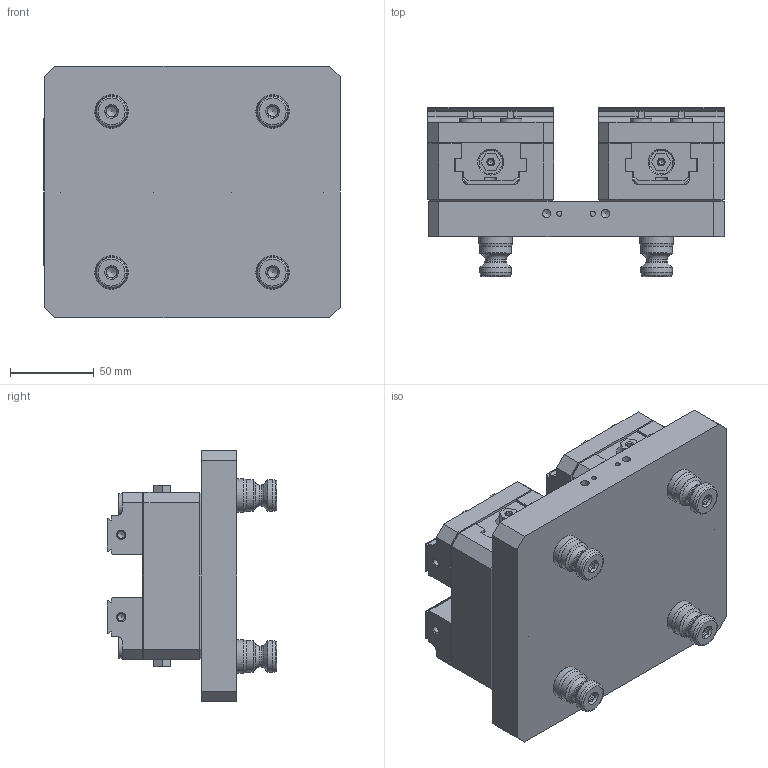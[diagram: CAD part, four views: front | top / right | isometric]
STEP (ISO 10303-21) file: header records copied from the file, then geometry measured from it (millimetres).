
FILE_DESCRIPTION (( 'STEP AP214' ), '1' );
FILE_NAME ('A96-2V75100X_WEBSITE.STEP', '2025-08-14T18:50:56', ( '' ), ( '' ), 'SwSTEP 2.0', 'SolidWorks 2024', '' );
FILE_SCHEMA (( 'AUTOMOTIVE_DESIGN' ));
Length unit declared in the file: inch
Products named in the file (20): HW.76232_WEBSITE_91290A418; V75100X-2_WEBSITE_V75100X-2L OP2; V75100X-2_WEBSITE_V75100X-2R OP2; A96-2V75100X-1_WEBSITE; D_PS20F-1_WEBSITE_HARD TURN; M5x10.DP_WEBSITE_93600A511; HW.76252_WEBSITE_91290A442; V75100-6_WEBSITE; LP8_WEBSITE_LP8; D_39874.CPSS_WEBSITE_91390A162; V75100-4_WEBSITE; V75100X_WEBSITE; V75100X-3_WEBSITE; SB3V_WEBSITE_FINISHED PART; A96-2V75100X_WEBSITE; M4C_WEBSITE; V75100X-5_WEBSITE_HARD OP2; V75100X-1_WEBSITE_FINAL; HW.76048_WEBSITE_91290A138; D_PS20F_WEBSITE
Assembly tree (36 placements, depth 3):
  A96-2V75100X_WEBSITE
    A96-2V75100X-1_WEBSITE
    V75100X_WEBSITE  x2
      V75100X-1_WEBSITE_FINAL
      V75100X-2_WEBSITE_V75100X-2L OP2
      V75100X-2_WEBSITE_V75100X-2R OP2
      V75100X-3_WEBSITE
      V75100-4_WEBSITE
      V75100X-5_WEBSITE_HARD OP2
      V75100-6_WEBSITE
      HW.76048_WEBSITE_91290A138
      HW.76232_WEBSITE_91290A418
      M5x10.DP_WEBSITE_93600A511
      SB3V_WEBSITE_FINISHED PART
      M4C_WEBSITE
      LP8_WEBSITE_LP8
      HW.76252_WEBSITE_91290A442
    D_PS20F_WEBSITE  x4
      D_PS20F-1_WEBSITE_HARD TURN
      D_39874.CPSS_WEBSITE_91390A162
Bounding box: 176.6 x 101.09 x 150 mm (x, y, z)
Volume: 1181828.1 mm3; surface area: 293534.3 mm2
Topology: 63 solids, 63 shells, 1700 faces, 3964 edges, 2520 vertices
Faces by surface type: plane 966, cylinder 372, cone 330, torus 32
Full cylindrical faces by diameter (mm): 3 x4, 3.03 x2, 3.124 x2, 3.3 x4, 3.454 x2, 4 x6, 4.2 x14, 4.5 x2, 4.915 x8, 4.999 x4, 5 x14, 5.013 x4, 5.017 x4, 5.052 x4, 5.969 x2, 6.147 x4, 6.35 x2, 6.8 x28, 7 x2, 7.4 x2, 8 x24, 8.014 x6, 8.5 x20, 9 x8, 9.5 x4, 10 x8, 11 x4, 11.971 x4, 12.009 x8, 12.497 x4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
Entity records: 19199 total; most frequent: CARTESIAN_POINT 2796, DIRECTION 2536, ORIENTED_EDGE 2064, EDGE_CURVE 1032, AXIS2_PLACEMENT_3D 966, EDGE_LOOP 848, VERTEX_POINT 768, FACE_OUTER_BOUND 677
